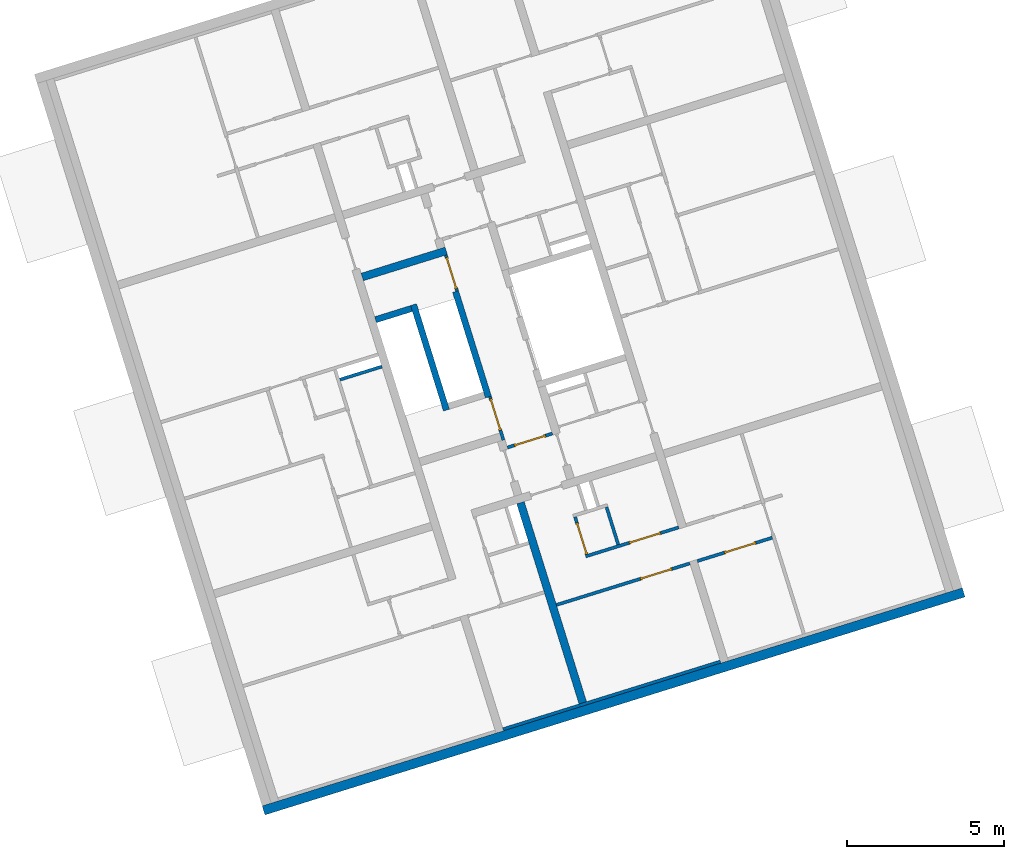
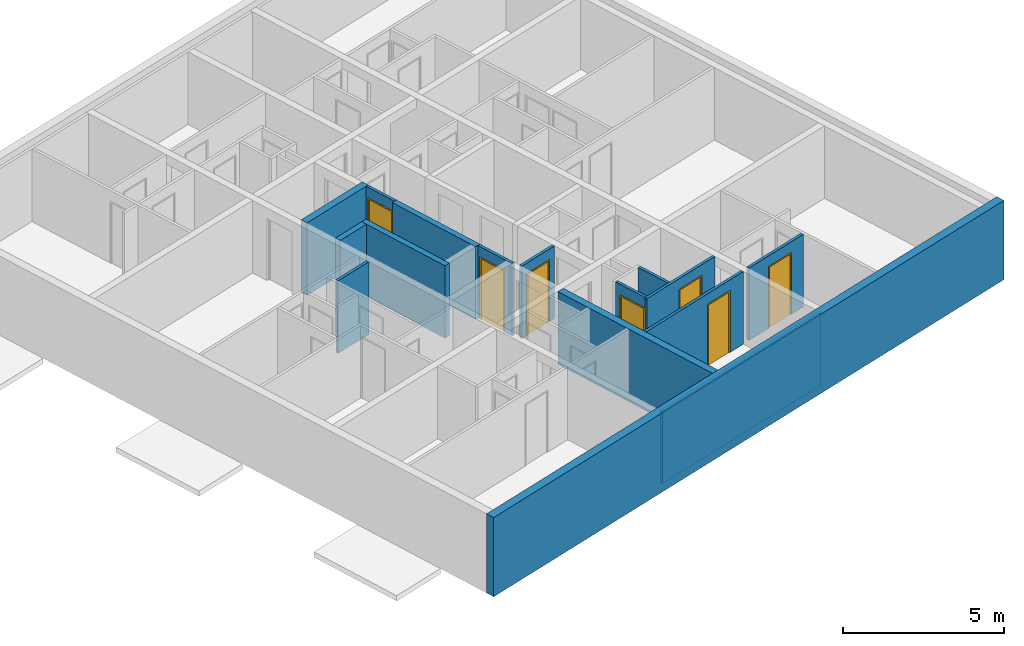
# One storey, part 3 of 9: 16 walls, 7 doors, 8 openings.
"""IFC4 building model written with IfcOpenShell, lengths in metres."""

import ifcopenshell
import ifcopenshell.guid

model = None  # the IFC model being written
_history = None  # IfcOwnerHistory: only IFC2X3 demands one
_inside = {}  # id of a spatial element -> (the spatial element, [elements in it])
_under = {}  # id of a project, library or spatial element -> (it, [spatial elements below it])
_declared = {}  # id of a project -> (the project, [libraries it declares])
_typed = {}  # id of a type object -> (the type object, [elements of that type])
_made_of = {}  # id of a material, layer set ... -> (it, [elements and type objects made of it])


def new_model(schema):
    """Start an empty IFC model of exactly this schema.

    Asked for "IFC4X3", IfcOpenShell would pick the latest addendum, in which some entities
    have other attributes; the version numbers below select the first issue.
    IFC2X3 requires an IfcOwnerHistory on every rooted entity: one is made here for all.
    """
    global model, _history
    if schema == "IFC4X3":
        model = ifcopenshell.file(schema_version=(4, 3, 0, 0))
    else:
        model = ifcopenshell.file(schema=schema)
    _inside.clear()
    _under.clear()
    _declared.clear()
    _typed.clear()
    _made_of.clear()
    _history = None
    if model.schema == "IFC2X3":
        org = make("IfcOrganization", Name="unknown")
        user = make(
            "IfcPersonAndOrganization",
            ThePerson=make("IfcPerson", FamilyName="unknown"),
            TheOrganization=org,
        )
        app = make(
            "IfcApplication",
            ApplicationDeveloper=org,
            Version="unknown",
            ApplicationFullName="unknown",
            ApplicationIdentifier="unknown",
        )
        _history = make(
            "IfcOwnerHistory",
            OwningUser=user,
            OwningApplication=app,
            ChangeAction="ADDED",
            CreationDate=0,
        )
    return model


def make(cls, **values):
    """One entity of the class cls with the attributes given. An attribute that is None is left unset."""
    return model.create_entity(
        cls, **{name: value for name, value in values.items() if value is not None}
    )


def entity(cls, *values):
    """Any entity or typed value of the class cls, its attributes in the order of the schema. None: left unset."""
    e = model.create_entity(cls)
    for i, value in enumerate(values):
        if value is not None:
            e[i] = value
    return e


def rooted(cls, **values):
    """An entity with a GlobalId (a new one), such as an element, a storey or a relation."""
    return make(cls, GlobalId=ifcopenshell.guid.new(), OwnerHistory=_history, **values)


def si_unit(unit_type, name, prefix=None):
    """IfcSIUnit, for example si_unit("LENGTHUNIT", "METRE", prefix="MILLI")."""
    return make("IfcSIUnit", UnitType=unit_type, Prefix=prefix, Name=name)


def converted_unit(unit_type, name, factor, base, dimensions=None, offset=None):
    """IfcConversionBasedUnit, such as the inch: factor (a typed value) times the base unit."""
    return make(
        "IfcConversionBasedUnit"
        if offset is None
        else "IfcConversionBasedUnitWithOffset",
        ConversionOffset=offset,
        Dimensions=None
        if dimensions is None
        else entity("IfcDimensionalExponents", *dimensions),
        UnitType=unit_type,
        Name=name,
        ConversionFactor=make(
            "IfcMeasureWithUnit", ValueComponent=factor, UnitComponent=base
        ),
    )


def assignment(units):
    """IfcUnitAssignment: the units of a project."""
    return None if units is None else make("IfcUnitAssignment", Units=units)


def point(xyz):
    """IfcCartesianPoint."""
    return None if xyz is None else make("IfcCartesianPoint", Coordinates=xyz)


def direction(xyz):
    """IfcDirection."""
    return None if xyz is None else make("IfcDirection", DirectionRatios=xyz)


def frame(location, z_axis=None, x_axis=None):
    """IfcAxis2Placement3D, a coordinate frame: its origin and axes. An axis left out is left unset."""
    return make(
        "IfcAxis2Placement3D",
        Location=point(location),
        Axis=direction(z_axis),
        RefDirection=direction(x_axis),
    )


def origin():
    """The frame at (0, 0, 0) with its axes left unset."""
    return frame((0.0, 0.0, 0.0))


def place(relative_to, where):
    """IfcLocalPlacement: puts the frame where relative to a parent placement (None: the world)."""
    return make(
        "IfcLocalPlacement", PlacementRelTo=relative_to, RelativePlacement=where
    )


def context(
    kind, dimensions, precision=None, world=None, true_north=None, identifier=None
):
    """IfcGeometricRepresentationContext, for example the 3D "Model" context."""
    return make(
        "IfcGeometricRepresentationContext",
        ContextIdentifier=identifier,
        ContextType=kind,
        CoordinateSpaceDimension=dimensions,
        Precision=precision,
        WorldCoordinateSystem=world,
        TrueNorth=true_north,
    )


def subcontext(parent, identifier, kind, view, scale=None):
    """IfcGeometricRepresentationSubContext, for example "Body" below "Model"."""
    return make(
        "IfcGeometricRepresentationSubContext",
        ContextIdentifier=identifier,
        ContextType=kind,
        ParentContext=parent,
        TargetScale=scale,
        TargetView=view,
    )


def project(units=None, contexts=None):
    """IfcProject with its units and contexts."""
    return rooted(
        "IfcProject",
        Name="project",
        RepresentationContexts=contexts,
        UnitsInContext=assignment(units),
    )


def spatial(cls, under=None, at=None, **own):
    """A site, building, storey or space (cls), placed at a placement, below another one or the project."""
    s = rooted(cls, ObjectPlacement=at, **own)
    if under is not None:
        _under.setdefault(under.id(), (under, []))[1].append(s)
    return s


def point_list(points):
    """IfcCartesianPointList2D or 3D."""
    cls = (
        "IfcCartesianPointList2D" if len(points[0]) == 2 else "IfcCartesianPointList3D"
    )
    return make(cls, CoordList=points)


def indexed_curve(points, segments=None, self_intersect=None):
    """IfcIndexedPolyCurve: lines and arcs through numbered points (the first is 1)."""
    return make(
        "IfcIndexedPolyCurve",
        Points=point_list(points),
        Segments=segments,
        SelfIntersect=self_intersect,
    )


def outline(outer, holes=None, kind="AREA"):
    """IfcArbitraryClosedProfileDef: a profile drawn as a closed curve; with holes, ...WithVoids."""
    if holes is None:
        return make("IfcArbitraryClosedProfileDef", ProfileType=kind, OuterCurve=outer)
    return make(
        "IfcArbitraryProfileDefWithVoids",
        ProfileType=kind,
        OuterCurve=outer,
        InnerCurves=holes,
    )


def extrude(swept, where, along, depth):
    """IfcExtrudedAreaSolid: the profile swept, set in the frame where, extruded along a direction by depth."""
    return make(
        "IfcExtrudedAreaSolid",
        SweptArea=swept,
        Position=where,
        ExtrudedDirection=direction(along),
        Depth=depth,
    )


def polygons(points, faces, closed=None, point_numbers=None):
    """IfcPolygonalFaceSet: a face is its outer loop, then its inner loops; points numbered from 1."""
    made = []
    for loops in faces:
        if len(loops) == 1:
            made.append(make("IfcIndexedPolygonalFace", CoordIndex=loops[0]))
        else:
            made.append(
                make(
                    "IfcIndexedPolygonalFaceWithVoids",
                    CoordIndex=loops[0],
                    InnerCoordIndices=loops[1:],
                )
            )
    return make(
        "IfcPolygonalFaceSet",
        Coordinates=point_list(points),
        Closed=closed,
        Faces=made,
        PnIndex=point_numbers,
    )


def shape(context_of_items, identifier, shape_type, items):
    """IfcShapeRepresentation: the items that make up one representation, for example the "Body"."""
    return make(
        "IfcShapeRepresentation",
        ContextOfItems=context_of_items,
        RepresentationIdentifier=identifier,
        RepresentationType=shape_type,
        Items=items,
    )


def source(mapping_origin, context_of_items, identifier, shape_type, items):
    """IfcRepresentationMap: a shape defined once, which mapped items show again and again."""
    return make(
        "IfcRepresentationMap",
        MappingOrigin=mapping_origin,
        MappedRepresentation=shape(context_of_items, identifier, shape_type, items),
    )


def transform(
    local_origin,
    x_axis=None,
    y_axis=None,
    z_axis=None,
    scale=None,
    scale2=None,
    scale3=None,
    uniform=True,
):
    """IfcCartesianTransformationOperator3D, or its non-uniform kind. x_axis, y_axis, z_axis: its Axis1, 2, 3."""
    if uniform:
        return make(
            "IfcCartesianTransformationOperator3D",
            Axis1=direction(x_axis),
            Axis2=direction(y_axis),
            LocalOrigin=point(local_origin),
            Scale=scale,
            Axis3=direction(z_axis),
        )
    return make(
        "IfcCartesianTransformationOperator3DnonUniform",
        Axis1=direction(x_axis),
        Axis2=direction(y_axis),
        LocalOrigin=point(local_origin),
        Scale=scale,
        Axis3=direction(z_axis),
        Scale2=scale2,
        Scale3=scale3,
    )


def mapped(mapping_source, mapping_target):
    """IfcMappedItem: shows the shape of a source again, moved by a transform."""
    return make(
        "IfcMappedItem", MappingSource=mapping_source, MappingTarget=mapping_target
    )


def material(Name=None, Category=None):
    """IfcMaterial."""
    return make("IfcMaterial", Name=Name, Category=Category)


def constituent(of_material, Name=None, Category=None, fraction=None):
    """IfcMaterialConstituent: one of the materials an element consists of."""
    return make(
        "IfcMaterialConstituent",
        Name=Name,
        Material=of_material,
        Fraction=fraction,
        Category=Category,
    )


def constituent_set(constituents=None, Name=None):
    """IfcMaterialConstituentSet."""
    return make(
        "IfcMaterialConstituentSet", Name=Name, MaterialConstituents=constituents
    )


def made_of(thing, what):
    """Note that an element or type object is made of a material, layer set ...; save() writes the relation."""
    if what is not None:
        _made_of.setdefault(what.id(), (what, []))[1].append(thing)
    return thing


def type_object(cls, material=None, **own):
    """A type object (cls), such as IfcWallType, which elements share."""
    return made_of(rooted(cls, **own), material)


def type_shapes(of_type, sources):
    """Give a type object the sources (RepresentationMaps) that its elements show as mapped items."""
    of_type.RepresentationMaps = sources


def element(
    cls,
    number,
    at=None,
    inside=None,
    cuts=None,
    type_object=None,
    material=None,
    context=None,
    identifier="Body",
    shape_type=None,
    held_by="IfcProductDefinitionShape",
    body=None,
    shapes=None,
    **own,
):
    """One element of the class cls, such as IfcWall. Its Tag is "e" and its number.

    at: its placement. inside: the storey or other place that contains it. cuts: it is an
    opening in that element (IfcRelVoidsElement). A single representation is given by context,
    identifier, shape_type and body (its items); several are given by shapes. held_by: the class
    of the entity that holds the representations. save() writes the other relations.
    """
    e = rooted(cls, Tag="e%d" % number, ObjectPlacement=at, **own)
    if body is not None:
        shapes = [shape(context, identifier, shape_type, body)]
    if shapes is not None:
        e.Representation = make(held_by, Representations=shapes)
    if inside is not None:
        _inside.setdefault(inside.id(), (inside, []))[1].append(e)
    if cuts is not None:
        rooted(
            "IfcRelVoidsElement", RelatingBuildingElement=cuts, RelatedOpeningElement=e
        )
    if type_object is not None:
        _typed.setdefault(type_object.id(), (type_object, []))[1].append(e)
    return made_of(e, material)


def fill(opening, filler):
    """IfcRelFillsElement: the door or window that sits in an opening."""
    return rooted(
        "IfcRelFillsElement",
        RelatingOpeningElement=opening,
        RelatedBuildingElement=filler,
    )


def aggregate(whole, parts):
    """IfcRelAggregates: a whole, such as a stair, and the parts it consists of."""
    return rooted("IfcRelAggregates", RelatingObject=whole, RelatedObjects=parts)


def save(model, path):
    """Write the relations noted so far, then the file.

    IfcRelAggregates (storeys below a building ...), IfcRelContainedInSpatialStructure (elements
    in a storey), IfcRelDefinesByType, IfcRelAssociatesMaterial and IfcRelDeclares: one each for
    every whole, place, type object, material and project.
    """
    for whole, parts in _under.values():
        aggregate(whole, parts)
    for where, things in _inside.values():
        rooted(
            "IfcRelContainedInSpatialStructure",
            RelatedElements=things,
            RelatingStructure=where,
        )
    for kind, things in _typed.values():
        rooted("IfcRelDefinesByType", RelatedObjects=things, RelatingType=kind)
    for what, things in _made_of.values():
        rooted("IfcRelAssociatesMaterial", RelatedObjects=things, RelatingMaterial=what)
    for by, libraries in _declared.values():
        rooted("IfcRelDeclares", RelatingContext=by, RelatedDefinitions=libraries)
    model.write(path)


model = new_model("IFC4")

# Units and contexts
model_context = context("Model", 3, precision=1e-05, world=origin(), true_north=direction((6.12323399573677e-17, 1.0)))
body_context = subcontext(model_context, "Body", "Model", "MODEL_VIEW")
ifc_project = project(units=[si_unit("LENGTHUNIT", "METRE"), si_unit("AREAUNIT", "SQUARE_METRE"), converted_unit("PLANEANGLEUNIT", "DEGREE", entity("IfcPlaneAngleMeasure", 0.0174532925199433), si_unit("PLANEANGLEUNIT", "RADIAN"), dimensions=[0, 0, 0, 0, 0, 0, 0]), si_unit("VOLUMEUNIT", "CUBIC_METRE")], contexts=[model_context])

# Site, building, storey
site_placement = place(None, frame((13.1347999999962, 11.9886000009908, 0.0), z_axis=(0.0, 0.0, 1.0), x_axis=(0.954770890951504, 0.297342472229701, 0.0)))
site = spatial("IfcSite", under=ifc_project, at=site_placement, Name="Schiehaven", CompositionType="ELEMENT")
building_placement = place(site_placement, origin())
building = spatial("IfcBuilding", under=site, at=building_placement, Name="VORM huis", CompositionType="ELEMENT")
storey_placement = place(building_placement, frame((0.0, 0.0, 24.9)))
storey = spatial("IfcBuildingStorey", under=building, at=storey_placement, Name="08 achtste verdieping", CompositionType="ELEMENT", Elevation=24.9)

# Walls
ifc_material_1 = material(Name="ntb_ntb_ntb", Category="Miscellaneous")
wall_type_1 = type_object("IfcWallType", Name="Basic Wall:21_WA_gevel_binnenspouwwand 100mm_gen", PredefinedType="STANDARD")
wall_1_placement = place(storey_placement, frame((65.1250000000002, 5.0499999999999, 0.0)))
element("IfcWall", 1, at=wall_1_placement, inside=storey, type_object=wall_type_1, material=ifc_material_1, Name="Binnenspouwblad", ObjectType="Wand", PredefinedType="NOTDEFINED", context=body_context, shape_type="SweptSolid", body=[
    extrude(outline(indexed_curve([(7.24999999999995, 0.0500000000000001), (1.59680748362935e-16, 0.0500000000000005), (-1.59680748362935e-16, -0.0500000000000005), (7.24999999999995, -0.050000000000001), (7.24999999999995, 0.0500000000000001)], self_intersect=False)), origin(), (0.0, 0.0, 1.0), 2.75),
])
wall_type_2 = type_object("IfcWallType", Name="Basic Wall: 300mm_gen", PredefinedType="STANDARD")
wall_2_placement = place(storey_placement, frame((57.075, 4.8499999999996, 0.0)))
element("IfcWall", 2, at=wall_2_placement, inside=storey, type_object=wall_type_2, material=ifc_material_1, Name="Gevelwand", ObjectType="Wand", PredefinedType="NOTDEFINED", context=body_context, shape_type="SweptSolid", body=[
    extrude(outline(indexed_curve([(23.3500000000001, 0.15), (1.78509395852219e-15, 0.149999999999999), (-1.78509395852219e-15, -0.15), (23.3500000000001, -0.15), (23.3500000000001, 0.15)], self_intersect=False)), origin(), (0.0, 0.0, 1.0), 3.0),
])
ifc_material_2 = material(Name="beton_gewapend_prefab-element", Category="Miscellaneous")
wall_type_3 = type_object("IfcWallType", Name="Basic Wall:28_WA_skelet_wand 200mm_gen", PredefinedType="STANDARD")
wall_3_placement = place(storey_placement, frame((67.8250000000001, 15.2899999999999, 0.0), z_axis=(0.0, 0.0, 1.0), x_axis=(0.0, 1.0, 0.0)))
element("IfcWall", 3, at=wall_3_placement, inside=storey, type_object=wall_type_3, material=ifc_material_2, Name="Constructieve wand", ObjectType="Wand", PredefinedType="NOTDEFINED", context=body_context, shape_type="SweptSolid", body=[
    extrude(outline(indexed_curve([(3.52, 0.100000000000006), (1.54310621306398e-16, 0.100000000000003), (-1.54310621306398e-16, -0.100000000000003), (3.52, -0.1), (3.52, 0.100000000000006)], self_intersect=False)), origin(), (0.0, 0.0, 1.0), 2.75),
])
wall_4_placement = place(storey_placement, frame((66.4250000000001, 15.2899999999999, 0.0), z_axis=(0.0, 0.0, 1.0), x_axis=(0.0, 1.0, 0.0)))
element("IfcWall", 4, at=wall_4_placement, inside=storey, type_object=wall_type_3, material=ifc_material_2, Name="Constructieve wand", ObjectType="Wand", PredefinedType="NOTDEFINED", context=body_context, shape_type="SweptSolid", body=[
    extrude(outline(indexed_curve([(3.52, 0.100000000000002), (2.77363704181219e-16, 0.100000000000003), (-2.77363704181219e-16, -0.100000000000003), (3.52, -0.100000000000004), (3.52, 0.100000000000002)], self_intersect=False)), origin(), (0.0, 0.0, 1.0), 2.75),
])
wall_type_4 = type_object("IfcWallType", Name="Basic Wall:22_WA_afbouw_binnenwand 250mm_gen", PredefinedType="STANDARD")
wall_5_placement = place(storey_placement, frame((65.1249999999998, 20.1349999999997, 0.0)))
element("IfcWall", 5, at=wall_5_placement, inside=storey, type_object=wall_type_4, material=ifc_material_1, Name="Binnenwand", ObjectType="Wand", PredefinedType="NOTDEFINED", context=body_context, shape_type="SweptSolid", body=[
    extrude(outline(indexed_curve([(2.80000000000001, 0.124999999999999), (1.66486711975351e-15, 0.125000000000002), (-1.66486711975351e-15, -0.125000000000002), (2.80000000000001, -0.125000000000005), (2.80000000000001, 0.124999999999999)], self_intersect=False)), origin(), (0.0, 0.0, 1.0), 2.75),
])
wall_6_placement = place(storey_placement, frame((67.7999999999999, 11.7749999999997, 0.0), z_axis=(0.0, 0.0, 1.0), x_axis=(0.0, -1.0, 0.0)))
element("IfcWall", 6, at=wall_6_placement, inside=storey, type_object=wall_type_4, material=ifc_material_1, Name="Binnenwand", ObjectType="Wand", PredefinedType="NOTDEFINED", context=body_context, shape_type="SweptSolid", body=[
    extrude(outline(indexed_curve([(6.67500000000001, 0.124999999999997), (-6.98570836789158e-16, 0.124999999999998), (6.98570836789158e-16, -0.124999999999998), (6.67500000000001, -0.124999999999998), (6.67500000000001, 0.124999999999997)], self_intersect=False)), origin(), (0.0, 0.0, 1.0), 2.75),
])

# Wall, opening, door
wall_type_5 = type_object("IfcWallType", Name="Basic Wall:22_WA_afbouw_binnenwand 100mm_gen", PredefinedType="STANDARD")
wall_7_placement = place(storey_placement, frame((67.8749999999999, 13.8399999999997, 0.0), z_axis=(0.0, 0.0, 1.0), x_axis=(0.0, 1.0, 0.0)))
wall_7 = element("IfcWall", 7, at=wall_7_placement, inside=storey, type_object=wall_type_5, material=ifc_material_1, Name="Binnenwand", ObjectType="Wand", PredefinedType="NOTDEFINED", context=body_context, shape_type="Tessellation", body=[
    polygons([(1.44999999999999, -0.0500000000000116, 0.0), (1.44999999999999, -0.0500000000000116, 2.75), (0.0, -0.0500000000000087, 2.75), (0.0, -0.0500000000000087, 0.0), (0.324999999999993, -0.0500000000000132, 0.0), (0.324999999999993, -0.0500000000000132, 2.34999999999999), (1.37499999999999, -0.0500000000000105, 2.34999999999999), (1.37499999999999, -0.0500000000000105, 0.0), (1.44999999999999, 0.0500000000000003, 2.75), (1.44999999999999, 0.0500000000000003, 0.0), (1.37499999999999, 0.0500000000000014, 0.0), (1.37499999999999, 0.0500000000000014, 2.34999999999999), (0.324999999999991, 0.0499999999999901, 2.34999999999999), (0.324999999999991, 0.0499999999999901, 0.0), (0.250000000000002, 0.0499999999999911, 0.0), (2.16573425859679e-15, 0.0499999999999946, 0.0), (2.16573425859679e-15, 0.0499999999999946, 2.75), (0.250000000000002, 0.0499999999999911, 2.75)], [[[1, 2, 3, 4, 5, 6, 7, 8]], [[9, 10, 11, 12, 13, 14, 15, 16, 17, 18]], [[4, 16, 15, 14, 5]], [[2, 1, 10, 9]], [[3, 2, 9, 18, 17]], [[13, 6, 5, 14]], [[7, 12, 11, 8]], [[6, 13, 12, 7]], [[4, 3, 17, 16]], [[10, 1, 8, 11]]], closed=True),
])
opening_1_placement = place(wall_7_placement, frame((0.324999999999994, -0.0499999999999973, 0.0)))
opening_1 = element("IfcOpeningElement", 8, at=opening_1_placement, cuts=wall_7, Name="Vluchtdeur", PredefinedType="OPENING", context=body_context, shape_type="SweptSolid", body=[
    extrude(outline(indexed_curve([(2.34999999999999, 1.35358391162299e-15), (2.34999999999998, 1.05), (0.0, 1.05), (2.16573425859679e-15, 1.35358391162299e-15), (2.34999999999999, 1.35358391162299e-15)], self_intersect=False)), frame((0.0, 0.0, 0.0), z_axis=(0.0, 1.0, 0.0), x_axis=(0.0, 0.0, 1.0)), (0.0, 0.0, 1.0), 0.1),
])
ifc_material_3 = material(Name="PD_a_binnenwandopeningen", Category="Miscellaneous")
ifc_constituent_1 = constituent(ifc_material_3, Name="PD_a_binnenwandopeningen", Category="Miscellaneous")
ifc_material_4 = material(Name="metaal_aluminium_ntb", Category="Miscellaneous")
ifc_constituent_2 = constituent(ifc_material_4, Name="metaal_aluminium_ntb", Category="Miscellaneous")
ifc_constituent_set_1 = constituent_set(constituents=[ifc_constituent_1, ifc_constituent_2])
ifc_constituent_3 = constituent(ifc_material_3, Name="PD_a_binnenwandopeningen", Category="Miscellaneous")
ifc_constituent_4 = constituent(ifc_material_4, Name="Panel", Category="Miscellaneous")
ifc_constituent_set_2 = constituent_set(constituents=[ifc_constituent_3, ifc_constituent_4])
door_type_1 = type_object("IfcDoorType", Name="32_DO_binnendeur enkel:binnendeur zelfsluitend 30min", OperationType="NOTDEFINED", PredefinedType="DOOR", material=ifc_constituent_set_2)
shared_shape_1 = source(origin(), body_context, "Body", "SweptSolid", [
    extrude(outline(indexed_curve([(0.475, -1.16249999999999), (0.525, -1.16249999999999), (0.525, 1.18749999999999), (-0.525, 1.18749999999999), (-0.525, -1.16249999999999), (-0.475, -1.16249999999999), (-0.475, 1.13749999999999), (0.475, 1.13749999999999), (0.475, -1.16249999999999)], self_intersect=False)), frame((0.525000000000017, 0.100000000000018, 1.16249999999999), z_axis=(0.0, -1.0, 0.0), x_axis=(1.0, 0.0, 0.0)), (0.0, 0.0, 1.0), 0.1),
    extrude(outline(indexed_curve([(-0.475, -0.025), (0.475, -0.025), (0.475, 0.025), (-0.475, 0.025), (-0.475, -0.025)], self_intersect=False)), frame((0.525000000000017, 0.0499999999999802, 0.0)), (0.0, 0.0, 1.0), 2.29999999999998),
])
type_shapes(door_type_1, [shared_shape_1])
door_1_placement = place(opening_1_placement, origin())
door_1 = element("IfcDoor", 9, at=door_1_placement, inside=storey, type_object=door_type_1, material=ifc_constituent_set_1, Name="Vluchtdeur", ObjectType="Deur", OperationType="NOTDEFINED", OverallHeight=2.34999999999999, OverallWidth=1.05, PredefinedType="DOOR", context=body_context, shape_type="MappedRepresentation", body=[
    mapped(shared_shape_1, transform((0.0, 0.0, 0.0), scale=1.0)),
])
fill(opening_1, door_1)

wall_8_placement = place(storey_placement, frame((67.8750000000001, 20.0099999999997, 0.0), z_axis=(0.0, 0.0, 1.0), x_axis=(0.0, -1.0, 0.0)))
wall_8 = element("IfcWall", 10, at=wall_8_placement, inside=storey, type_object=wall_type_5, material=ifc_material_1, Name="Binnenwand", ObjectType="Wand", PredefinedType="NOTDEFINED", context=body_context, shape_type="Tessellation", body=[
    polygons([(1.19999999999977, -0.0500000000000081, 0.0), (1.19999999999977, -0.0500000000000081, 2.75), (0.0, -0.0500000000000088, 2.75), (0.0, -0.0500000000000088, 0.0), (0.0749999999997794, -0.0500000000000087, 0.0), (0.0749999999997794, -0.0500000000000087, 2.34999999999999), (1.12499999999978, -0.0500000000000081, 2.34999999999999), (1.12499999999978, -0.0500000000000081, 0.0), (1.19999999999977, 0.0499999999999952, 2.75), (1.19999999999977, 0.0499999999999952, 0.0), (1.12499999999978, 0.0499999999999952, 0.0), (1.12499999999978, 0.0499999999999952, 2.34999999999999), (0.0749999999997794, 0.0499999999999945, 2.34999999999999), (0.0749999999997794, 0.0499999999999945, 0.0), (0.0, 0.0499999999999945, 0.0), (0.0, 0.0499999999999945, 2.75)], [[[1, 2, 3, 4, 5, 6, 7, 8]], [[9, 10, 11, 12, 13, 14, 15, 16]], [[4, 15, 14, 5]], [[2, 1, 10, 9]], [[3, 2, 9, 16]], [[13, 6, 5, 14]], [[6, 13, 12, 7]], [[7, 12, 11, 8]], [[4, 3, 16, 15]], [[10, 1, 8, 11]]], closed=True),
])
opening_2_placement = place(wall_8_placement, frame((1.12499999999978, 0.0499999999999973, 0.0)))
opening_2 = element("IfcOpeningElement", 11, at=opening_2_placement, cuts=wall_8, Name="Vluchtdeur", PredefinedType="OPENING", context=body_context, shape_type="SweptSolid", body=[
    extrude(outline(indexed_curve([(2.34999999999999, 0.0), (2.34999999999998, 1.05), (0.0, 1.05), (2.16573425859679e-15, 0.0), (2.34999999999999, 0.0)], self_intersect=False)), frame((0.0, 0.0, 0.0), z_axis=(0.0, -1.0, 0.0), x_axis=(0.0, 0.0, 1.0)), (0.0, 0.0, 1.0), 0.1),
])
ifc_constituent_5 = constituent(ifc_material_3, Name="PD_a_binnenwandopeningen", Category="Miscellaneous")
ifc_constituent_6 = constituent(ifc_material_4, Name="metaal_aluminium_ntb", Category="Miscellaneous")
ifc_constituent_set_3 = constituent_set(constituents=[ifc_constituent_5, ifc_constituent_6])
door_2_placement = place(opening_2_placement, frame((0.0, 0.0, 0.0), z_axis=(0.0, 0.0, 1.0), x_axis=(-1.0, 0.0, 0.0)))
door_2 = element("IfcDoor", 12, at=door_2_placement, inside=storey, type_object=door_type_1, material=ifc_constituent_set_3, Name="Vluchtdeur", ObjectType="Deur", OperationType="NOTDEFINED", OverallHeight=2.34999999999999, OverallWidth=1.05, PredefinedType="DOOR", context=body_context, shape_type="MappedRepresentation", body=[
    mapped(shared_shape_1, transform((0.0, 0.0, 0.0), scale=1.0)),
])
fill(opening_2, door_2)

wall_9_placement = place(storey_placement, frame((67.9249999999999, 13.5749999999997, 0.0)))
wall_9 = element("IfcWall", 13, at=wall_9_placement, inside=storey, type_object=wall_type_5, material=ifc_material_1, Name="Binnenwand", ObjectType="Wand", PredefinedType="NOTDEFINED", context=body_context, shape_type="Tessellation", body=[
    polygons([(1.5, -0.0500000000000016, 2.75), (2.96853060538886e-15, -0.0500000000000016, 2.75), (2.96853060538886e-15, -0.0500000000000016, 2.34999999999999), (2.96853060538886e-15, -0.0500000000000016, 0.0), (0.225000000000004, -0.0500000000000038, 0.0), (0.225000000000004, -0.0500000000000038, 2.34999999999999), (1.27500000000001, -0.0500000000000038, 2.34999999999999), (1.27500000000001, -0.0500000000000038, 0.0), (1.5, -0.0500000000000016, 0.0), (1.5, -0.0500000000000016, 2.34999999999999), (4.71986391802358e-15, 0.0499999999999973, 2.75), (1.5, 0.0500000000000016, 2.75), (1.5, 0.0500000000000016, 0.0), (1.27500000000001, 0.0499999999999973, 0.0), (1.27500000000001, 0.0499999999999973, 2.34999999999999), (0.225000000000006, 0.0499999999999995, 2.34999999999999), (0.225000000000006, 0.0499999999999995, 0.0), (4.71986391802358e-15, 0.0499999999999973, 0.0)], [[[1, 2, 3, 4, 5, 6, 7, 8, 9, 10]], [[11, 12, 13, 14, 15, 16, 17, 18]], [[4, 18, 17, 5]], [[2, 1, 12, 11]], [[16, 6, 5, 17]], [[6, 16, 15, 7]], [[7, 15, 14, 8]], [[4, 3, 2, 11, 18]], [[1, 10, 9, 13, 12]], [[13, 9, 8, 14]]], closed=True),
])
opening_3_placement = place(wall_9_placement, frame((0.225000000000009, -0.0499999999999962, 0.0)))
opening_3 = element("IfcOpeningElement", 14, at=opening_3_placement, cuts=wall_9, Name="Vluchtdeur", PredefinedType="OPENING", context=body_context, shape_type="SweptSolid", body=[
    extrude(outline(indexed_curve([(2.34999999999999, 1.05), (0.0, 1.05), (0.0, 1.86682906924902e-29), (2.34999999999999, 1.86682906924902e-29), (2.34999999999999, 1.05)], self_intersect=False)), frame((0.0, 0.0, 0.0), z_axis=(0.0, 1.0, 0.0), x_axis=(0.0, 0.0, 1.0)), (0.0, 0.0, 1.0), 0.1),
])
ifc_constituent_7 = constituent(ifc_material_3, Name="PD_a_binnenwandopeningen", Category="Miscellaneous")
ifc_constituent_8 = constituent(ifc_material_4, Name="metaal_aluminium_ntb", Category="Miscellaneous")
ifc_constituent_set_4 = constituent_set(constituents=[ifc_constituent_7, ifc_constituent_8])
ifc_constituent_9 = constituent(ifc_material_3, Name="PD_a_binnenwandopeningen", Category="Miscellaneous")
ifc_constituent_10 = constituent(ifc_material_4, Name="Panel", Category="Miscellaneous")
ifc_constituent_set_5 = constituent_set(constituents=[ifc_constituent_9, ifc_constituent_10])
door_type_2 = type_object("IfcDoorType", Name="32_DO_binnendeur enkel:binnendeur zelfsluitend 30min", OperationType="NOTDEFINED", PredefinedType="DOOR", material=ifc_constituent_set_5)
shared_shape_2 = source(origin(), body_context, "Body", "SweptSolid", [
    extrude(outline(indexed_curve([(-1.16249999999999, -0.525000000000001), (1.18749999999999, -0.525), (1.18749999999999, 0.525), (-1.16249999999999, 0.525), (-1.16249999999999, 0.475), (1.13749999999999, 0.475), (1.13749999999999, -0.475), (-1.16249999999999, -0.475), (-1.16249999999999, -0.525000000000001)], self_intersect=False)), frame((0.525000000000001, 0.0, 1.16249999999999), z_axis=(0.0, 1.0, 0.0), x_axis=(0.0, 0.0, 1.0)), (0.0, 0.0, 1.0), 0.1),
    extrude(outline(indexed_curve([(-0.025, -0.475), (0.025, -0.475), (0.025, 0.475), (-0.025, 0.475), (-0.025, -0.475)], self_intersect=False)), frame((0.525000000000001, 0.0499999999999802, 0.0), z_axis=(0.0, 0.0, 1.0), x_axis=(0.0, 1.0, 0.0)), (0.0, 0.0, 1.0), 2.29999999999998),
])
type_shapes(door_type_2, [shared_shape_2])
door_3_placement = place(opening_3_placement, origin())
door_3 = element("IfcDoor", 15, at=door_3_placement, inside=storey, type_object=door_type_2, material=ifc_constituent_set_4, Name="Vluchtdeur", ObjectType="Deur", OperationType="NOTDEFINED", OverallHeight=2.34999999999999, OverallWidth=1.05, PredefinedType="DOOR", context=body_context, shape_type="MappedRepresentation", body=[
    mapped(shared_shape_2, transform((0.0, 0.0, 0.0), scale=1.0)),
])
fill(opening_3, door_3)

wall_10_placement = place(storey_placement, frame((72.375, 8.32499999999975, 0.0), z_axis=(0.0, 0.0, 1.0), x_axis=(-1.0, 0.0, 0.0)))
wall_10 = element("IfcWall", 16, at=wall_10_placement, inside=storey, type_object=wall_type_5, material=ifc_material_1, Name="Binnenwand", ObjectType="Wand", PredefinedType="NOTDEFINED", context=body_context, shape_type="Tessellation", body=[
    polygons([(-1.02529302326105e-15, -0.0500000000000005, 0.0), (0.600000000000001, -0.0500000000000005, 0.0), (0.600000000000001, -0.0500000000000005, 2.34999999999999), (1.65000000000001, -0.0500000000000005, 2.34999999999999), (1.65000000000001, -0.0500000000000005, 0.0), (4.45000000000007, -0.0500000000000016, 0.0), (4.45000000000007, -0.0500000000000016, 2.75), (-1.02529302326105e-15, -0.0500000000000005, 2.75), (0.600000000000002, 0.0499999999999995, 2.34999999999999), (0.600000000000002, 0.0499999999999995, 0.0), (2.28205931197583e-16, 0.0499999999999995, 0.0), (2.28205931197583e-16, 0.0499999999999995, 2.75), (4.45000000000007, 0.0499999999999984, 2.75), (4.45000000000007, 0.0499999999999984, 0.0), (1.65000000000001, 0.0499999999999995, 0.0), (1.65000000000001, 0.0499999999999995, 2.34999999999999)], [[[1, 2, 3, 4, 5, 6, 7, 8]], [[9, 10, 11, 12, 13, 14, 15, 16]], [[11, 10, 2, 1]], [[7, 6, 14, 13]], [[8, 7, 13, 12]], [[1, 8, 12, 11]], [[5, 4, 16, 15]], [[3, 2, 10, 9]], [[4, 3, 9, 16]], [[15, 14, 6, 5]]], closed=True),
])
opening_4_placement = place(wall_10_placement, frame((1.65000000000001, 0.0500000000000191, 0.0)))
opening_4 = element("IfcOpeningElement", 17, at=opening_4_placement, cuts=wall_10, Name="Binnendeur", PredefinedType="OPENING", context=body_context, shape_type="SweptSolid", body=[
    extrude(outline(indexed_curve([(2.34999999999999, 2.1208950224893e-30), (2.34999999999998, 1.05), (0.0, 1.05), (2.16573425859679e-15, 2.1208950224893e-30), (2.34999999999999, 2.1208950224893e-30)], self_intersect=False)), frame((0.0, 0.0, 0.0), z_axis=(0.0, -1.0, 0.0), x_axis=(0.0, 0.0, 1.0)), (0.0, 0.0, 1.0), 0.1),
])
ifc_constituent_11 = constituent(ifc_material_3, Name="PD_a_binnenwandopeningen", Category="Miscellaneous")
ifc_constituent_12 = constituent(ifc_material_4, Name="metaal_aluminium_ntb", Category="Miscellaneous")
ifc_constituent_set_6 = constituent_set(constituents=[ifc_constituent_11, ifc_constituent_12])
ifc_constituent_13 = constituent(ifc_material_3, Name="PD_a_binnenwandopeningen", Category="Miscellaneous")
ifc_constituent_14 = constituent(ifc_material_4, Name="Panel", Category="Miscellaneous")
ifc_constituent_set_7 = constituent_set(constituents=[ifc_constituent_13, ifc_constituent_14])
door_type_3 = type_object("IfcDoorType", Name="32_DO_binnendeur enkel:binnendeur", OperationType="REVOLVING", PredefinedType="DOOR", material=ifc_constituent_set_7)
shared_shape_3 = source(origin(), body_context, "Body", "SweptSolid", [
    extrude(outline(indexed_curve([(0.475, -1.16249999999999), (0.525, -1.16249999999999), (0.525, 1.18749999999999), (-0.525, 1.18749999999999), (-0.525, -1.16249999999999), (-0.475, -1.16249999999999), (-0.475, 1.13749999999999), (0.475, 1.13749999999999), (0.475, -1.16249999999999)], self_intersect=False)), frame((0.525000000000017, 0.100000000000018, 1.16249999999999), z_axis=(0.0, -1.0, 0.0), x_axis=(1.0, 0.0, 0.0)), (0.0, 0.0, 1.0), 0.1),
    extrude(outline(indexed_curve([(-0.475, -0.025), (0.475, -0.025), (0.475, 0.025), (-0.475, 0.025), (-0.475, -0.025)], self_intersect=False)), frame((0.525000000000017, 0.0499999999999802, 0.0)), (0.0, 0.0, 1.0), 2.29999999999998),
])
type_shapes(door_type_3, [shared_shape_3])
door_4_placement = place(opening_4_placement, frame((0.0, 0.0, 0.0), z_axis=(0.0, 0.0, 1.0), x_axis=(-1.0, 0.0, 0.0)))
door_4 = element("IfcDoor", 18, at=door_4_placement, inside=storey, type_object=door_type_3, material=ifc_constituent_set_6, Name="Binnendeur", ObjectType="Deur", OperationType="REVOLVING", OverallHeight=2.34999999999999, OverallWidth=1.05, PredefinedType="DOOR", context=body_context, shape_type="MappedRepresentation", body=[
    mapped(shared_shape_3, transform((0.0, 0.0, 0.0), scale=1.0)),
])
fill(opening_4, door_4)

# Wall, openings, door
wall_11_placement = place(storey_placement, frame((72.375, 9.52499999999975, 0.0), z_axis=(0.0, 0.0, 1.0), x_axis=(-1.0, 0.0, 0.0)))
wall_11 = element("IfcWall", 19, at=wall_11_placement, inside=storey, type_object=wall_type_5, material=ifc_material_1, Name="Binnenwand", ObjectType="Wand", PredefinedType="NOTDEFINED", context=body_context, shape_type="Tessellation", body=[
    polygons([(1.65, -0.0500000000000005, 2.34999999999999), (1.65, -0.0500000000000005, 0.0), (1.95000000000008, -0.0500000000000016, 0.0), (2.05000000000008, -0.0500000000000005, 0.0), (3.10000000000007, -0.0500000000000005, 0.0), (3.10000000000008, -0.0500000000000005, 2.34999999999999), (3.10000000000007, -0.0500000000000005, 2.75), (3.00000000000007, -0.0500000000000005, 2.75), (2.05000000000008, -0.0500000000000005, 2.75), (1.95000000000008, -0.0500000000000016, 2.75), (1.25859359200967e-15, -0.0500000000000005, 2.75), (1.25859359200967e-15, -0.0500000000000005, 0.0), (0.599999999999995, -0.0500000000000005, 0.0), (0.599999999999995, -0.0500000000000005, 2.34999999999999), (3.10000000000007, 0.0499999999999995, 0.0), (1.65, 0.0499999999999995, 0.0), (1.65, 0.0499999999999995, 2.34999999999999), (0.599999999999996, 0.0499999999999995, 2.34999999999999), (0.599999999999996, 0.0499999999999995, 0.0), (2.51209254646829e-15, 0.0499999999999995, 0.0), (2.51209254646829e-15, 0.0499999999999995, 2.75), (3.10000000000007, 0.0499999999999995, 2.75)], [[[1, 2, 3, 4, 5, 6, 7, 8, 9, 10, 11, 12, 13, 14]], [[15, 16, 17, 18, 19, 20, 21, 22]], [[13, 12, 20, 19]], [[11, 10, 9, 8, 7, 22, 21]], [[12, 11, 21, 20]], [[19, 18, 14, 13]], [[17, 16, 2, 1]], [[18, 17, 1, 14]], [[7, 6, 5, 15, 22]], [[5, 4, 3, 2, 16, 15]]], closed=True),
])
opening_5_placement = place(wall_11_placement, origin())
element("IfcOpeningElement", 20, at=opening_5_placement, cuts=wall_11, Name="Binnendeur", PredefinedType="OPENING", context=body_context, shape_type="SweptSolid", body=[
    extrude(outline(indexed_curve([(-0.050000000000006, -1.17499999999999), (0.0499999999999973, -1.17499999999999), (0.0499999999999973, 1.17499999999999), (-0.050000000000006, 1.17499999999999), (-0.050000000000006, -1.17499999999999)], self_intersect=False)), frame((3.05000000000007, -1.1, 1.17499999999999), z_axis=(0.0, 1.0, 0.0), x_axis=(1.0, 0.0, 0.0)), (0.0, 0.0, 1.0), 1.05),
])
opening_6_placement = place(wall_11_placement, frame((0.599999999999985, -0.0499999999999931, 0.0)))
opening_6 = element("IfcOpeningElement", 21, at=opening_6_placement, cuts=wall_11, Name="Binnendeur", PredefinedType="OPENING", context=body_context, shape_type="SweptSolid", body=[
    extrude(outline(indexed_curve([(2.34999999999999, 2.1208950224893e-30), (2.34999999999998, 1.05), (0.0, 1.05), (2.16573425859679e-15, 2.1208950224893e-30), (2.34999999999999, 2.1208950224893e-30)], self_intersect=False)), frame((0.0, 0.0, 0.0), z_axis=(0.0, 1.0, 0.0), x_axis=(0.0, 0.0, 1.0)), (0.0, 0.0, 1.0), 0.1),
])
ifc_constituent_15 = constituent(ifc_material_3, Name="PD_a_binnenwandopeningen", Category="Miscellaneous")
ifc_constituent_16 = constituent(ifc_material_4, Name="metaal_aluminium_ntb", Category="Miscellaneous")
ifc_constituent_set_8 = constituent_set(constituents=[ifc_constituent_15, ifc_constituent_16])
door_5_placement = place(opening_6_placement, origin())
door_5 = element("IfcDoor", 22, at=door_5_placement, inside=storey, type_object=door_type_3, material=ifc_constituent_set_8, Name="Binnendeur", ObjectType="Deur", OperationType="REVOLVING", OverallHeight=2.34999999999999, OverallWidth=1.05, PredefinedType="DOOR", context=body_context, shape_type="MappedRepresentation", body=[
    mapped(shared_shape_3, transform((0.0, 0.0, 0.0), scale=1.0)),
])
fill(opening_6, door_5)

# Wall, opening, door
wall_12_placement = place(storey_placement, frame((69.3249999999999, 9.57499999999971, 0.0), z_axis=(0.0, 0.0, 1.0), x_axis=(0.0, 1.0, 0.0)))
wall_12 = element("IfcWall", 23, at=wall_12_placement, inside=storey, type_object=wall_type_5, material=ifc_material_1, Name="Binnenwand", ObjectType="Wand", PredefinedType="NOTDEFINED", context=body_context, shape_type="Tessellation", body=[
    polygons([(1.25, -0.0500000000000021, 2.75), (3.24860138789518e-15, -0.0500000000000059, 2.75), (1.08286712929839e-15, -0.0500000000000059, 2.34999999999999), (1.05, -0.0500000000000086, 2.34999999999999), (1.05, -0.0500000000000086, 0.0), (1.25, -0.0500000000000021, 0.0), (1.08286712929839e-15, 0.0499999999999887, 2.75), (1.25, 0.0500000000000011, 2.75), (1.25, 0.0500000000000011, 0.0), (1.05, 0.0500000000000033, 0.0), (1.05, 0.0499999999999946, 2.34999999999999), (1.08286712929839e-15, 0.0499999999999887, 2.34999999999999)], [[[1, 2, 3, 4, 5, 6]], [[7, 8, 9, 10, 11, 12]], [[9, 6, 5, 10]], [[2, 1, 8, 7]], [[4, 11, 10, 5]], [[11, 4, 3, 12]], [[1, 6, 9, 8]], [[2, 7, 12, 3]]], closed=True),
])
opening_7_placement = place(wall_12_placement, frame((0.0, -0.0499999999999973, 0.0)))
opening_7 = element("IfcOpeningElement", 24, at=opening_7_placement, cuts=wall_12, Name="Binnendeur", PredefinedType="OPENING", context=body_context, shape_type="SweptSolid", body=[
    extrude(outline(indexed_curve([(2.34999999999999, 1.35358391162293e-15), (2.34999999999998, 1.05), (0.0, 1.05), (2.16573425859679e-15, 1.35358391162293e-15), (2.34999999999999, 1.35358391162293e-15)], self_intersect=False)), frame((0.0, 0.0, 0.0), z_axis=(0.0, 1.0, 0.0), x_axis=(0.0, 0.0, 1.0)), (0.0, 0.0, 1.0), 0.1),
])
ifc_constituent_17 = constituent(ifc_material_3, Name="PD_a_binnenwandopeningen", Category="Miscellaneous")
ifc_constituent_18 = constituent(ifc_material_4, Name="metaal_aluminium_ntb", Category="Miscellaneous")
ifc_constituent_set_9 = constituent_set(constituents=[ifc_constituent_17, ifc_constituent_18])
door_6_placement = place(opening_7_placement, origin())
door_6 = element("IfcDoor", 25, at=door_6_placement, inside=storey, type_object=door_type_3, material=ifc_constituent_set_9, Name="Binnendeur", ObjectType="Deur", OperationType="REVOLVING", OverallHeight=2.34999999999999, OverallWidth=1.05, PredefinedType="DOOR", context=body_context, shape_type="MappedRepresentation", body=[
    mapped(shared_shape_3, transform((0.0, 0.0, 0.0), scale=1.0)),
])
fill(opening_7, door_6)

# Wall
wall_13_placement = place(storey_placement, frame((70.3749999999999, 10.8249999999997, 0.0), z_axis=(0.0, 0.0, 1.0), x_axis=(0.0, -1.0, 0.0)))
element("IfcWall", 26, at=wall_13_placement, inside=storey, type_object=wall_type_5, material=ifc_material_1, Name="Binnenwand", ObjectType="Wand", PredefinedType="NOTDEFINED", context=body_context, shape_type="SweptSolid", body=[
    extrude(outline(indexed_curve([(1.25, 0.0500000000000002), (5.75634952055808e-16, 0.0499999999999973), (-5.75634952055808e-16, -0.0499999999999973), (1.25, -0.0499999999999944), (1.25, 0.0500000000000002)], self_intersect=False)), origin(), (0.0, 0.0, 1.0), 2.75),
])

# Wall, opening, door
wall_14_placement = place(storey_placement, frame((72.625, 8.32499999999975, 0.0)))
wall_14 = element("IfcWall", 27, at=wall_14_placement, inside=storey, type_object=wall_type_5, material=ifc_material_1, Name="Binnenwand", ObjectType="Wand", PredefinedType="NOTDEFINED", context=body_context, shape_type="Tessellation", body=[
    polygons([(1.06419389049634e-16, -0.0500000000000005, 0.0), (0.899999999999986, -0.0500000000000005, 0.0), (0.899999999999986, -0.0500000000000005, 2.34999999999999), (1.94999999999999, -0.0500000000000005, 2.34999999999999), (1.94999999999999, -0.0500000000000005, 0.0), (2.50000000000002, -0.0500000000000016, 0.0), (2.50000000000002, -0.0500000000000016, 2.75), (1.06419389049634e-16, -0.0500000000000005, 2.75), (0.899999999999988, 0.0500000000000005, 2.34999999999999), (0.899999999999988, 0.0500000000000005, 0.0), (1.78271439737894e-15, 0.0499999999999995, 0.0), (1.78271439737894e-15, 0.0499999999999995, 2.75), (2.50000000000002, 0.0499999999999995, 2.75), (2.5, 0.0499999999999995, 0.0), (1.94999999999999, 0.0500000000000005, 0.0), (1.94999999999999, 0.0500000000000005, 2.34999999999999)], [[[1, 2, 3, 4, 5, 6, 7, 8]], [[9, 10, 11, 12, 13, 14, 15, 16]], [[11, 10, 2, 1]], [[8, 7, 13, 12]], [[1, 8, 12, 11]], [[5, 4, 16, 15]], [[3, 2, 10, 9]], [[4, 3, 9, 16]], [[7, 6, 14, 13]], [[15, 14, 6, 5]]], closed=True),
])
opening_8_placement = place(wall_14_placement, frame((0.899999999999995, -0.0499999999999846, 0.0)))
opening_8 = element("IfcOpeningElement", 28, at=opening_8_placement, cuts=wall_14, Name="Binnendeur", PredefinedType="OPENING", context=body_context, shape_type="SweptSolid", body=[
    extrude(outline(indexed_curve([(2.34999999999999, 1.05), (0.0, 1.05), (0.0, 4.67982478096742e-30), (2.34999999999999, 4.67982478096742e-30), (2.34999999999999, 1.05)], self_intersect=False)), frame((0.0, 0.0, 0.0), z_axis=(0.0, 1.0, 0.0), x_axis=(0.0, 0.0, 1.0)), (0.0, 0.0, 1.0), 0.1),
])
ifc_constituent_19 = constituent(ifc_material_3, Name="PD_a_binnenwandopeningen", Category="Miscellaneous")
ifc_constituent_20 = constituent(ifc_material_4, Name="metaal_aluminium_ntb", Category="Miscellaneous")
ifc_constituent_set_10 = constituent_set(constituents=[ifc_constituent_19, ifc_constituent_20])
ifc_constituent_21 = constituent(ifc_material_3, Name="PD_a_binnenwandopeningen", Category="Miscellaneous")
ifc_constituent_22 = constituent(ifc_material_4, Name="Panel", Category="Miscellaneous")
ifc_constituent_set_11 = constituent_set(constituents=[ifc_constituent_21, ifc_constituent_22])
door_type_4 = type_object("IfcDoorType", Name="32_DO_binnendeur enkel:binnendeur", OperationType="REVOLVING", PredefinedType="DOOR", material=ifc_constituent_set_11)
shared_shape_4 = source(origin(), body_context, "Body", "SweptSolid", [
    extrude(outline(indexed_curve([(-1.16249999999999, -0.525000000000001), (1.18749999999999, -0.525), (1.18749999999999, 0.525), (-1.16249999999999, 0.525), (-1.16249999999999, 0.475), (1.13749999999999, 0.475), (1.13749999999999, -0.475), (-1.16249999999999, -0.475), (-1.16249999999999, -0.525000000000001)], self_intersect=False)), frame((0.525000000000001, 0.0, 1.16249999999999), z_axis=(0.0, 1.0, 0.0), x_axis=(0.0, 0.0, 1.0)), (0.0, 0.0, 1.0), 0.1),
    extrude(outline(indexed_curve([(-0.025, -0.475), (0.025, -0.475), (0.025, 0.475), (-0.025, 0.475), (-0.025, -0.475)], self_intersect=False)), frame((0.525000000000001, 0.0499999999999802, 0.0), z_axis=(0.0, 0.0, 1.0), x_axis=(0.0, 1.0, 0.0)), (0.0, 0.0, 1.0), 2.29999999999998),
])
type_shapes(door_type_4, [shared_shape_4])
door_7_placement = place(opening_8_placement, origin())
door_7 = element("IfcDoor", 29, at=door_7_placement, inside=storey, type_object=door_type_4, material=ifc_constituent_set_10, Name="Binnendeur", ObjectType="Deur", OperationType="REVOLVING", OverallHeight=2.34999999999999, OverallWidth=1.05, PredefinedType="DOOR", context=body_context, shape_type="MappedRepresentation", body=[
    mapped(shared_shape_4, transform((0.0, 0.0, 0.0), scale=1.0)),
])
fill(opening_8, door_7)

# Walls
wall_15_placement = place(storey_placement, frame((64.8771642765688, 17.2249999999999, 0.0), z_axis=(0.0, 0.0, 1.0), x_axis=(-1.0, 0.0, 0.0)))
element("IfcWall", 30, at=wall_15_placement, inside=storey, type_object=wall_type_5, material=ifc_material_1, Name="Binnenwand", ObjectType="Wand", PredefinedType="NOTDEFINED", context=body_context, shape_type="SweptSolid", body=[
    extrude(outline(indexed_curve([(1.40216427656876, 0.0499999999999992), (8.93476767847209e-18, 0.0499999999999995), (-8.93476767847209e-18, -0.0499999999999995), (1.40216427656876, -0.0499999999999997), (1.40216427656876, 0.0499999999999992)], self_intersect=False)), origin(), (0.0, 0.0, 1.0), 2.75),
])
wall_type_6 = type_object("IfcWallType", Name="Basic Wall:22_WA_afbouw_binnenwand 200mm_gen", PredefinedType="STANDARD")
wall_16_placement = place(storey_placement, frame((65.1250000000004, 18.7099999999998, 0.0)))
element("IfcWall", 31, at=wall_16_placement, inside=storey, type_object=wall_type_6, material=ifc_material_1, Name="Binnenwand", ObjectType="Wand", PredefinedType="NOTDEFINED", context=body_context, shape_type="SweptSolid", body=[
    extrude(outline(indexed_curve([(1.2, 0.0999999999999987), (-7.02058589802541e-16, 0.0999999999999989), (7.02058589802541e-16, -0.0999999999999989), (1.20000000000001, -0.0999999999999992), (1.2, 0.0999999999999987)], self_intersect=False)), origin(), (0.0, 0.0, 1.0), 2.75),
])

save(model, "model.ifc")
